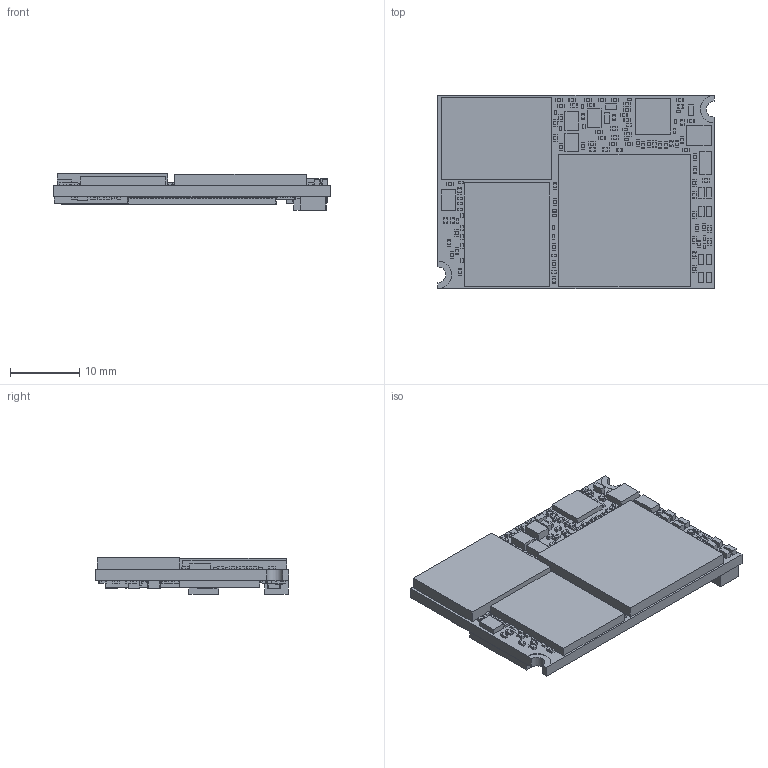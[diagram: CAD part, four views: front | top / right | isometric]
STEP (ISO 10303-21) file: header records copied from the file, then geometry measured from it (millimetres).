
FILE_DESCRIPTION (( 'STEP AP214' ), '1' );
FILE_NAME ('UCM-IMX95.STEP', '2024-05-13T07:45:31', ( '' ), ( '' ), 'SwSTEP 2.0', 'SolidWorks 2015', '' );
FILE_SCHEMA (( 'AUTOMOTIVE_DESIGN' ));
Length unit declared in the file: millimetre
Products named in the file (29): MO-276BA-1; UCM-IMX95; SC70-1; FB0603-1; C0201-1; DFN3.2x2.5-10-1; QFN8x8-56-5x5_5-1; SOT-563-6-1; LED-0603-1; BGA-716-0.7mm-body19x19-1; XTAL3_2x1_5-1; IND3_2x3_5SM-1; OSC3225-1; RC0603-1; RC0402FR-072K15L; MO-252UAAD-1; BOARD; RESNET8P0805-compulab-1; RC0201-1; SC_70-MAA05A-1; Conn._B2B_2x20 cont._P0.4mm_Plug; Ind2_5x2x1_2-1; 182E10004S-Conn._B2B_2x50 cont._P0.4mm_Plug; MO-220WHHE-1-1; LGA-96-1216-GPad-1; IND4_3x4_7SM-1; MO-229VCED-2-1; BGA-315-12.4x15mm-1; QFN3_5x4_5-24-1
Assembly tree (393 placements, depth 2):
  UCM-IMX95
    RC0201-1  x137
    RC0603-1  x9
    Ind2_5x2x1_2-1  x5
    BGA-315-12.4x15mm-1
    FB0603-1  x3
    LED-0603-1
    SC_70-MAA05A-1
    IND4_3x4_7SM-1
    IND3_2x3_5SM-1
    DFN3.2x2.5-10-1
    OSC3225-1  x2
    BOARD
    C0201-1  x2
    BGA-716-0.7mm-body19x19-1
    QFN8x8-56-5x5_5-1
    MO-252UAAD-1
    SC70-1
    QFN3_5x4_5-24-1  x2
    XTAL3_2x1_5-1
    RESNET8P0805-compulab-1  x2
    SOT-563-6-1
    MO-229VCED-2-1
    MO-220WHHE-1-1
    MO-276BA-1
    LGA-96-1216-GPad-1
    182E10004S-Conn._B2B_2x50 cont._P0.4mm_Plug  x2
    RC0402FR-072K15L  x211
    Conn._B2B_2x20 cont._P0.4mm_Plug
Bounding box: 40 x 28 x 5.32 mm (x, y, z)
Volume: 3445.2 mm3; surface area: 6598.2 mm2
Topology: 182 solids, 815 shells, 7639 faces, 19250 edges, 12828 vertices
Faces by surface type: plane 6575, cylinder 1052, cone 12
Entity records: 91961 total; most frequent: CARTESIAN_POINT 12533, DIRECTION 11938, ORIENTED_EDGE 11824, EDGE_CURVE 5916, VECTOR 4640, LINE 4640, VERTEX_POINT 3940, AXIS2_PLACEMENT_3D 3649
